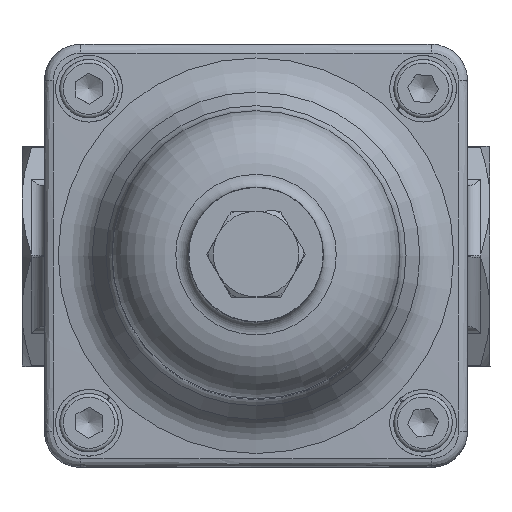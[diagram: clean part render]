
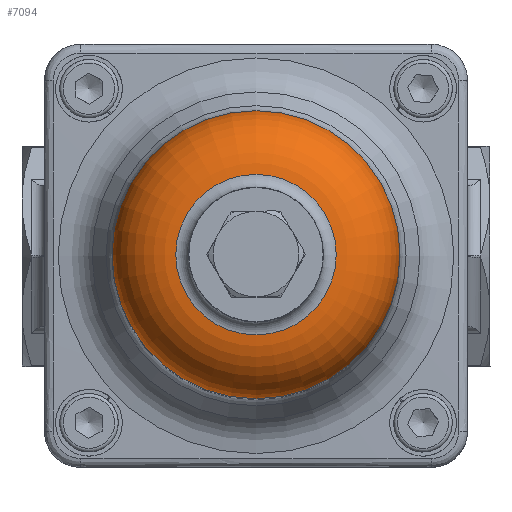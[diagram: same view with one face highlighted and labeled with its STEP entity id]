
A CAD part, top view. The second image highlights one B-rep face of the part: STEP entity #7094.
In plain terms, the highlighted toroidal (fillet/blend) face has major radius 17 mm and minor radius 15 mm.
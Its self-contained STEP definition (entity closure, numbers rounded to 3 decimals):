
#148=TOROIDAL_SURFACE('',#7835,17.,15.);
#1830=FACE_OUTER_BOUND('',#2298,.T.);
#2298=EDGE_LOOP('',(#6515,#6516,#6517,#6518,#6519));
#2363=CIRCLE('',#7218,32.);
#2625=CIRCLE('',#7824,17.833);
#2626=CIRCLE('',#7825,17.833);
#2634=CIRCLE('',#7836,15.);
#2786=VERTEX_POINT('',#12256);
#3319=VERTEX_POINT('',#19974);
#3320=VERTEX_POINT('',#19975);
#3501=EDGE_CURVE('',#2786,#2786,#2363,.T.);
#4385=EDGE_CURVE('',#3319,#3320,#2625,.T.);
#4386=EDGE_CURVE('',#3320,#3319,#2626,.T.);
#4395=EDGE_CURVE('',#3319,#2786,#2634,.T.);
#6515=ORIENTED_EDGE('',*,*,#4385,.T.);
#6516=ORIENTED_EDGE('',*,*,#4386,.T.);
#6517=ORIENTED_EDGE('',*,*,#4395,.T.);
#6518=ORIENTED_EDGE('',*,*,#3501,.T.);
#6519=ORIENTED_EDGE('',*,*,#4395,.F.);
#7094=ADVANCED_FACE('',(#1830),#148,.T.);
#7218=AXIS2_PLACEMENT_3D('',#12258,#8091,#8092);
#7824=AXIS2_PLACEMENT_3D('',#19976,#9587,#9588);
#7825=AXIS2_PLACEMENT_3D('',#19977,#9589,#9590);
#7835=AXIS2_PLACEMENT_3D('',#19993,#9610,#9611);
#7836=AXIS2_PLACEMENT_3D('',#19994,#9612,#9613);
#8091=DIRECTION('center_axis',(0.,0.,1.));
#8092=DIRECTION('ref_axis',(0.,1.,0.));
#9587=DIRECTION('center_axis',(0.,0.,-1.));
#9588=DIRECTION('ref_axis',(0.,1.,0.));
#9589=DIRECTION('center_axis',(0.,0.,-1.));
#9590=DIRECTION('ref_axis',(0.,1.,0.));
#9610=DIRECTION('center_axis',(0.,0.,1.));
#9611=DIRECTION('ref_axis',(0.,1.,0.));
#9612=DIRECTION('center_axis',(1.,0.,0.));
#9613=DIRECTION('ref_axis',(0.,-1.,0.));
#12256=CARTESIAN_POINT('',(-9.25,-32.,254.6));
#12258=CARTESIAN_POINT('Origin',(-9.25,0.,
254.6));
#19974=CARTESIAN_POINT('',(-9.25,-17.833,269.577));
#19975=CARTESIAN_POINT('',(8.583,0.,269.577));
#19976=CARTESIAN_POINT('Origin',(-9.25,0.,
269.577));
#19977=CARTESIAN_POINT('Origin',(-9.25,0.,
269.577));
#19993=CARTESIAN_POINT('Origin',(-9.25,0.,
254.6));
#19994=CARTESIAN_POINT('Origin',(-9.25,-17.,254.6));
